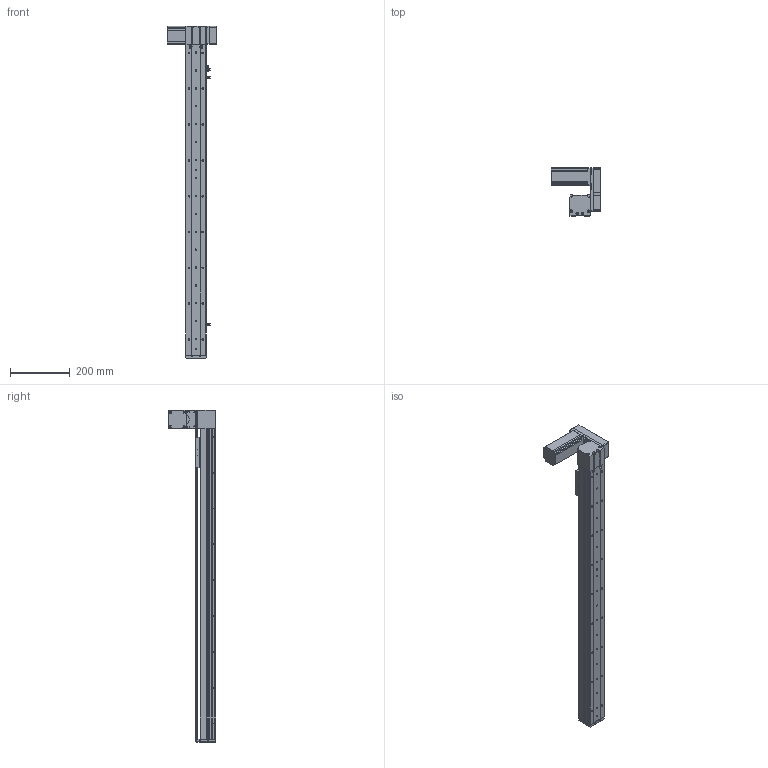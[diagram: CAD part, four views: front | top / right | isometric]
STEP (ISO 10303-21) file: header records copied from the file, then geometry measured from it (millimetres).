
FILE_DESCRIPTION (( 'STEP AP214' ), '1' );
FILE_NAME ('KSD68BS-S850-MLU-CM.STEP', '2019-11-06T06:30:47', ( '微软用户' ), ( '微软中国' ), 'SwSTEP 2.0', 'SolidWorks 2014', '' );
FILE_SCHEMA (( 'AUTOMOTIVE_DESIGN' ));
Length unit declared in the file: millimetre
Products named in the file (11): 悵誘欶奻狟殏; 68宽马达安装板连板上折同步带; 68宽单导轨半封闭同步带主动轮座左; 68单导轨同步带半封闭端板; KSD68BS 850俴最裔啣圉猾敕; 覜茼え68遵圉猾敕; KSD68BS半封闭同步带传动导轨座; U倰嫖萇EEㄜSX672; 台达ECMA－C20604AS伺服电机（400W); KSD68BS 850俴最菁啣圉猾敕; KSD68BS-S850-MLU-CM
Assembly tree (12 placements, depth 2):
  KSD68BS-S850-MLU-CM
    KSD68BS 850俴最菁啣圉猾敕
    台达ECMA－C20604AS伺服电机（400W)
    U倰嫖萇EEㄜSX672  x3
    KSD68BS半封闭同步带传动导轨座
    覜茼え68遵圉猾敕
    KSD68BS 850俴最裔啣圉猾敕
    68单导轨同步带半封闭端板
    68宽单导轨半封闭同步带主动轮座左
    68宽马达安装板连板上折同步带
    悵誘欶奻狟殏
Bounding box: 167.2 x 159.5 x 1112 mm (x, y, z)
Volume: 2181549.2 mm3; surface area: 755969.6 mm2
Topology: 13 solids, 13 shells, 1372 faces, 3938 edges, 2560 vertices
Faces by surface type: cylinder 684, plane 605, cone 83
Entity records: 50350 total; most frequent: CARTESIAN_POINT 9574, ORIENTED_EDGE 6628, DIRECTION 6558, EDGE_CURVE 3314, AXIS2_PLACEMENT_3D 2352, VERTEX_POINT 2184, VECTOR 1854, LINE 1854
